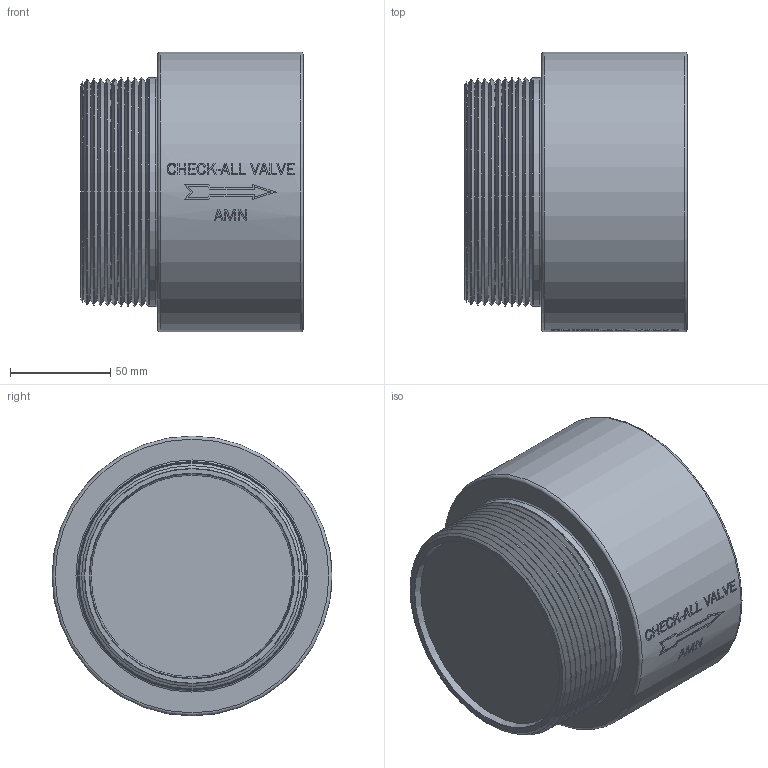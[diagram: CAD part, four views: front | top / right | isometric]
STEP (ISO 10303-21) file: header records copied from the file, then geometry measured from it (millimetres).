
FILE_DESCRIPTION(/* description */ ('Unknown'),/* implementation_level */ '2;1');
FILE_NAME(/* name */ 'AMNXXOR.500XX-WEB',/* time_stamp */ '2022-10-03T09:20:14-05:00',/* author */ ('Unknown'),/* organization */ ('Unknown'),/* preprocessor_version */ 'ST-DEVELOPER v18.102',/* originating_system */ 'Solid Edge',/* authorisation */ 'Unknown');
FILE_SCHEMA (('MODEL_BASED_INTEGRATED_MANUFACTURING_SCHEMA','AUTOMOTIVE_DESIGN {1 0 10303 214 3 1 1}'));
Length unit declared in the file: inch
Products named in the file (1): AMNXXOR.500XX-WEB
Bounding box: 111.15 x 139.7 x 139.7 mm (x, y, z)
Volume: 1210527.1 mm3; surface area: 110773.3 mm2
Topology: 1 solids, 2 shells, 300 faces, 743 edges, 471 vertices
Faces by surface type: plane 164, cone 81, cylinder 42, torus 7, bspline 6
Full cylindrical faces by diameter (mm): 65.024 x1, 73.66 x1, 92.939 x1, 107.952 x5, 114.3 x3, 139.7 x1
Entity records: 12128 total; most frequent: CARTESIAN_POINT 3716, ORIENTED_EDGE 1242, DIRECTION 1187, EDGE_CURVE 621, AXIS2_PLACEMENT_3D 484, VERTEX_POINT 450, FACE_BOUND 427, EDGE_LOOP 426
